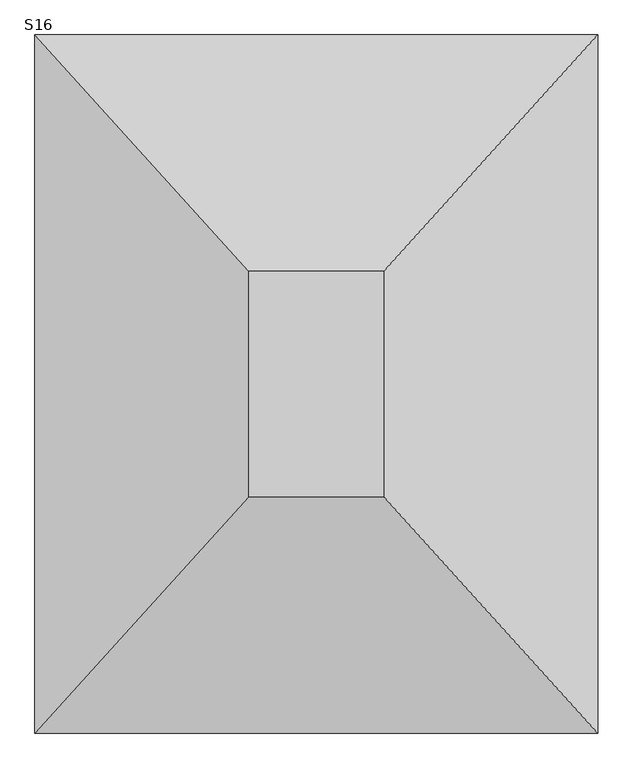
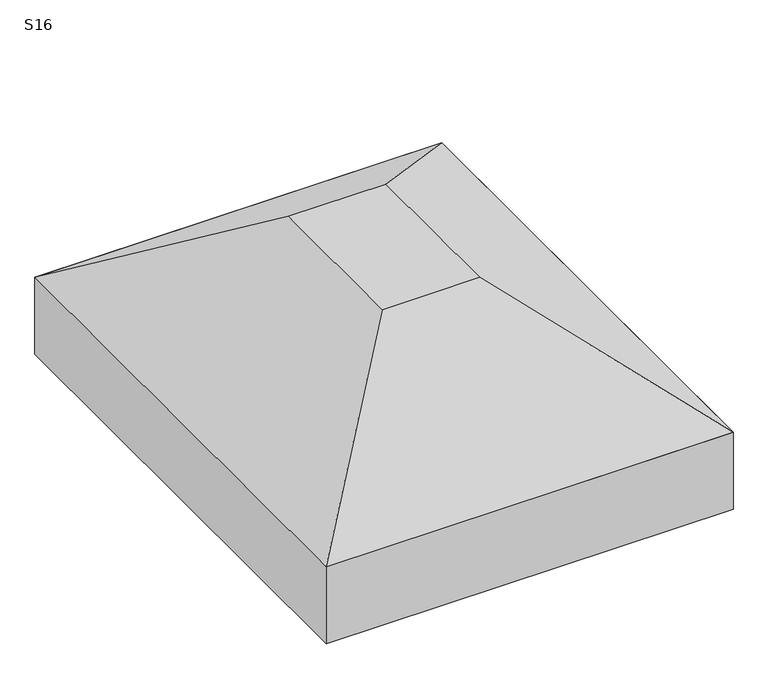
"""IFC4 building model written with IfcOpenShell, lengths in millimetres: fastener geometry, TQS - Sapata : S16."""

from ifc_helpers import new_model, si_unit, frame, origin, place, context, project, spatial, polyline, outline, extrude, faceted_brep, source, transform, mapped, element, save


def s16_36f2526b(model_context):
    return source(origin(), model_context, "Body", "SolidModel", [
        faceted_brep([(-50.0, 50.0, 0.0), (-350.0, 50.0, 0.0), (-350.0, -450.0, 0.0), (-50.0, -450.0, 0.0), (425.0, 575.0, -350.0), (425.0, -975.0, -350.0), (-825.0, -975.0, -350.0), (-825.0, 575.0, -350.0)], [[[0, 1, 2, 3]], [[4, 5, 6, 7]], [[4, 7, 1, 0]], [[7, 6, 2, 1]], [[6, 5, 3, 2]], [[5, 4, 0, 3]]]),
        extrude(outline(polyline([(425.0, 575.0), (425.0, -975.0), (-825.0, -975.0), (-825.0, 575.0), (425.0, 575.0)])), frame((0.0, 0.0, -600.0), z_axis=(0.0, 0.0, 1.0), x_axis=(1.0, 0.0, 0.0)), (0.0, 0.0, 1.0), 250.0),
    ])


if __name__ == "__main__":
    model = new_model("IFC4")
    model_context = context("Model", 3, world=origin())
    ifc_project = project(units=[si_unit("LENGTHUNIT", "METRE", prefix="MILLI")], contexts=[model_context])
    site = spatial("IfcSite", under=ifc_project)
    building = spatial("IfcBuilding", under=site)
    placement = place(None, origin())
    s16_shape = s16_36f2526b(model_context)
    element("IfcFastener", 1, ObjectType="TQS - Sapata : S16", at=placement, inside=building, context=model_context, shape_type="MappedRepresentation", body=[
        mapped(s16_shape, transform((0.0, 0.0, 0.0), x_axis=(1.0, 0.0, 0.0), y_axis=(0.0, 1.0, 0.0), z_axis=(0.0, 0.0, 1.0))),
    ])
    save(model, "model.ifc")
